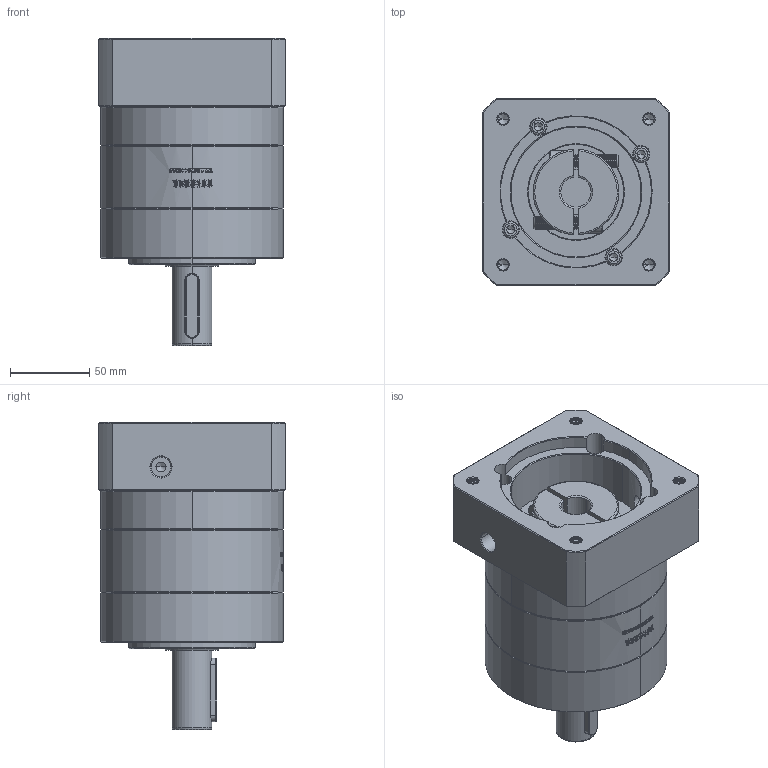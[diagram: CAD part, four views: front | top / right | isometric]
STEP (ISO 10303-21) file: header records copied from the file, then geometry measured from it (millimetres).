
FILE_DESCRIPTION (( 'STEP AP214' ), '1' );
FILE_NAME ('ZE120A-D25-L1-19-95-130-M8.step', '2023-03-09T06:22:14', ( '' ), ( '' ), 'SwSTEP 2.0', 'SolidWorks 2016', '' );
FILE_SCHEMA (( 'AUTOMOTIVE_DESIGN' ));
Length unit declared in the file: millimetre
Products named in the file (1): ZE120A-D25-L1-19-95-130-M8
Bounding box: 118 x 118 x 193.5 mm (x, y, z)
Volume: 1403031.4 mm3; surface area: 160565 mm2
Topology: 6 solids, 6 shells, 2035 faces, 5364 edges, 3422 vertices
Faces by surface type: plane 836, cylinder 523, bspline 333, cone 323, torus 20
Entity records: 118505 total; most frequent: CARTESIAN_POINT 50426, ORIENTED_EDGE 10652, DIRECTION 8019, EDGE_CURVE 5326, VERTEX_POINT 3422, VECTOR 2803, LINE 2803, AXIS2_PLACEMENT_3D 2608
